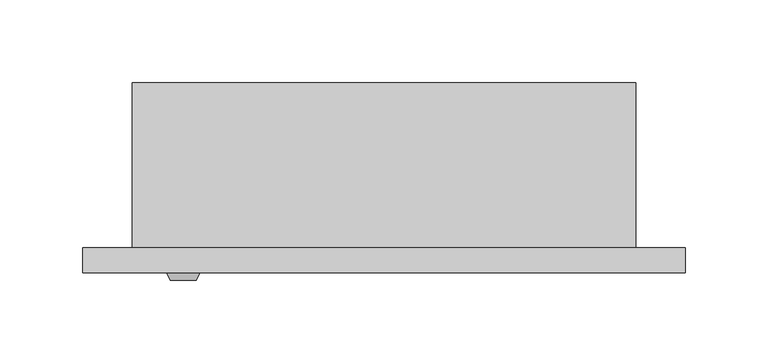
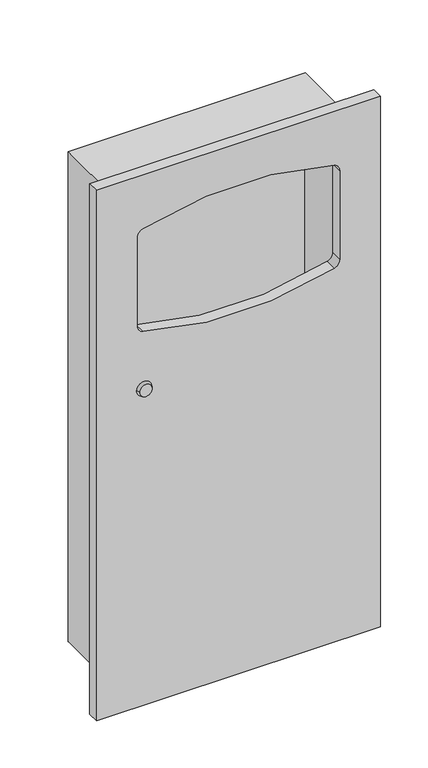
"""IFC4 building model written with IfcOpenShell, lengths in millimetres: proxy geometry, Waste_Metlam_Recessed_9L : 365w x 115d x 720h (ML710R_MKII)."""

from ifc_helpers import new_model, si_unit, point, frame, frame_2d, origin, place, context, project, spatial, polyline, circle_curve, trimmed, segment, composite_curve, outline, extrude, faceted_brep, source, transform, mapped, element, save
from ifc_brep_helpers import plane_surface, revolved_surface, advanced_brep


def specialty_equipment_a5e5e8b2(model_context):
    return source(origin(), model_context, "Body", "SolidModel", [
        extrude(outline(polyline([(930.0, 182.5), (1650.0, 182.5), (1650.0, -182.5), (930.0, -182.5), (930.0, 182.5)]), holes=[composite_curve([segment(trimmed(circle_curve(frame_2d((1567.6002962, 120.0)), 10.0), [point((1577.1884689, 122.8402367))], [point((1567.6002962, 130.0))], True, "CARTESIAN"), True, "CONTINUOUS"), segment(polyline([(1567.6002962, 130.0), (1447.3997038, 130.0)]), True, "CONTINUOUS"), segment(trimmed(circle_curve(frame_2d((1447.3997038, 120.0)), 10.0), [point((1447.3997038, 130.0))], [point((1437.8115311, 122.8402367))], True, "CARTESIAN"), True, "CONTINUOUS"), segment(trimmed(circle_curve(frame_2d((1852.5, 0.0)), 432.5), [point((1437.8115311, 122.8402367))], [point((1437.8115311, -122.8402367))], True, "CARTESIAN"), True, "CONTINUOUS"), segment(trimmed(circle_curve(frame_2d((1447.3997038, -120.0)), 10.0), [point((1437.8115311, -122.8402367))], [point((1447.3997038, -130.0))], True, "CARTESIAN"), True, "CONTINUOUS"), segment(polyline([(1447.3997038, -130.0), (1567.6002962, -130.0)]), True, "CONTINUOUS"), segment(trimmed(circle_curve(frame_2d((1567.6002962, -120.0)), 10.0), [point((1567.6002962, -130.0))], [point((1577.1884689, -122.8402367))], True, "CARTESIAN"), True, "CONTINUOUS"), segment(trimmed(circle_curve(frame_2d((1162.5, 0.0)), 432.5), [point((1577.1884689, -122.8402367))], [point((1577.1884689, 122.8402367))], True, "CARTESIAN"), True, "CONTINUOUS")], self_intersect=False)]), frame((0.0, -115.0, 0.0), z_axis=(0.0, 1.0, 0.0), x_axis=(0.0, 0.0, 1.0)), (0.0, 0.0, 1.0), 15.0),
        faceted_brep([(-152.5, -100.0, 1622.5), (-152.5, -100.0, 957.5), (152.5, -100.0, 957.5), (152.5, -100.0, 1622.5), (-150.5, -100.0, 1620.5), (150.5, -100.0, 1620.5), (150.5, -100.0, 959.5), (-150.5, -100.0, 959.5), (-152.5, 0.0, 1622.5), (152.5, 0.0, 1622.5), (152.5, 0.0, 957.5), (-152.5, 0.0, 957.5), (-152.5, -2.0, 1622.5), (-152.5, -2.0, 957.5), (152.5, -2.0, 957.5), (152.5, -2.0, 1622.5), (-150.5, -2.0, 1620.5), (150.5, -2.0, 1620.5), (150.5, -2.0, 959.5), (-150.5, -2.0, 959.5)], [[[0, 1, 2, 3], [4, 5, 6, 7]], [[8, 9, 10, 11]], [[1, 0, 12, 8, 11, 13]], [[2, 1, 13, 11, 10, 14]], [[3, 2, 14, 10, 9, 15]], [[0, 3, 15, 9, 8, 12]], [[5, 4, 16, 17]], [[6, 5, 17, 18]], [[7, 6, 18, 19]], [[4, 7, 19, 16]], [[17, 16, 19, 18]]]),
        advanced_brep(
        [(-129.5369825, -119.649141, 1360.0972849), (-113.5369825, -119.649141, 1360.0972849), (-131.5369825, -115.0, 1360.0972849), (-111.5369825, -115.0, 1360.0972849)],
        [
            (0, 1, circle_curve(frame((-121.5369825, -119.649141, 1360.0972849), z_axis=(0.0, -1.0, 0.0), x_axis=(-1.0, 0.0, 0.0)), 8.0)),
            (1, 0, circle_curve(frame((-121.5369825, -119.649141, 1360.0972849), z_axis=(0.0, -1.0, 0.0), x_axis=(1.0, 0.0, 0.0)), 8.0)),
            (2, 3, circle_curve(frame((-121.5369825, -115.0, 1360.0972849), z_axis=(0.0, 1.0, 0.0), x_axis=(1.0, 0.0, 0.0)), 10.0)),
            (3, 2, circle_curve(frame((-121.5369825, -115.0, 1360.0972849), z_axis=(0.0, 1.0, 0.0), x_axis=(-1.0, 0.0, 0.0)), 10.0)),
            (3, 1),
            (0, 2),
        ],
        [
            plane_surface(frame((-121.5369825, -119.649141, 1360.0972849), z_axis=(0.0, -1.0, 0.0), x_axis=(0.0, 0.0, -1.0))),
            plane_surface(frame((-121.5369825, -115.0, 1360.0972849), z_axis=(0.0, 1.0, 0.0), x_axis=(0.0, 0.0, -1.0))),
            revolved_surface(polyline([(-129.53698248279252, -119.649141, 1360.0972849), (-131.5369825, -115.0, 1360.0972849)]), (-121.5369825, -138.2457048, 1360.0972849), (0.0, 1.0, 0.0)),
            revolved_surface(polyline([(-113.53698251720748, -119.649141, 1360.0972849), (-111.5369825, -115.0, 1360.0972849)]), (-121.5369825, -138.2457048, 1360.0972849), (0.0, 1.0, 0.0)),
        ],
        [
            (0, [[1, 2]]),
            (1, [[3, 4]]),
            (2, [[-4, 5, -1, 6]]),
            (3, [[-3, -6, -2, -5]]),
        ],
    ),
    ])


if __name__ == "__main__":
    model = new_model("IFC4")
    model_context = context("Model", 3, world=origin())
    ifc_project = project(units=[si_unit("LENGTHUNIT", "METRE", prefix="MILLI")], contexts=[model_context])
    site = spatial("IfcSite", under=ifc_project)
    building = spatial("IfcBuilding", under=site)
    placement = place(None, origin())
    specialty_equipment_shape = specialty_equipment_a5e5e8b2(model_context)
    element("IfcBuildingElementProxy", 1, Name="Waste_Metlam_Recessed_9L : 365w x 115d x 720h (ML710R_MKII)", ObjectType="Waste_Metlam_Recessed_9L : 365w x 115d x 720h (ML710R_MKII)", at=placement, inside=building, context=model_context, shape_type="MappedRepresentation", body=[
        mapped(specialty_equipment_shape, transform((0.0, 0.0, 0.0), x_axis=(1.0, 0.0, 0.0), y_axis=(0.0, 1.0, 0.0), z_axis=(0.0, 0.0, 1.0))),
    ])
    save(model, "model.ifc")
